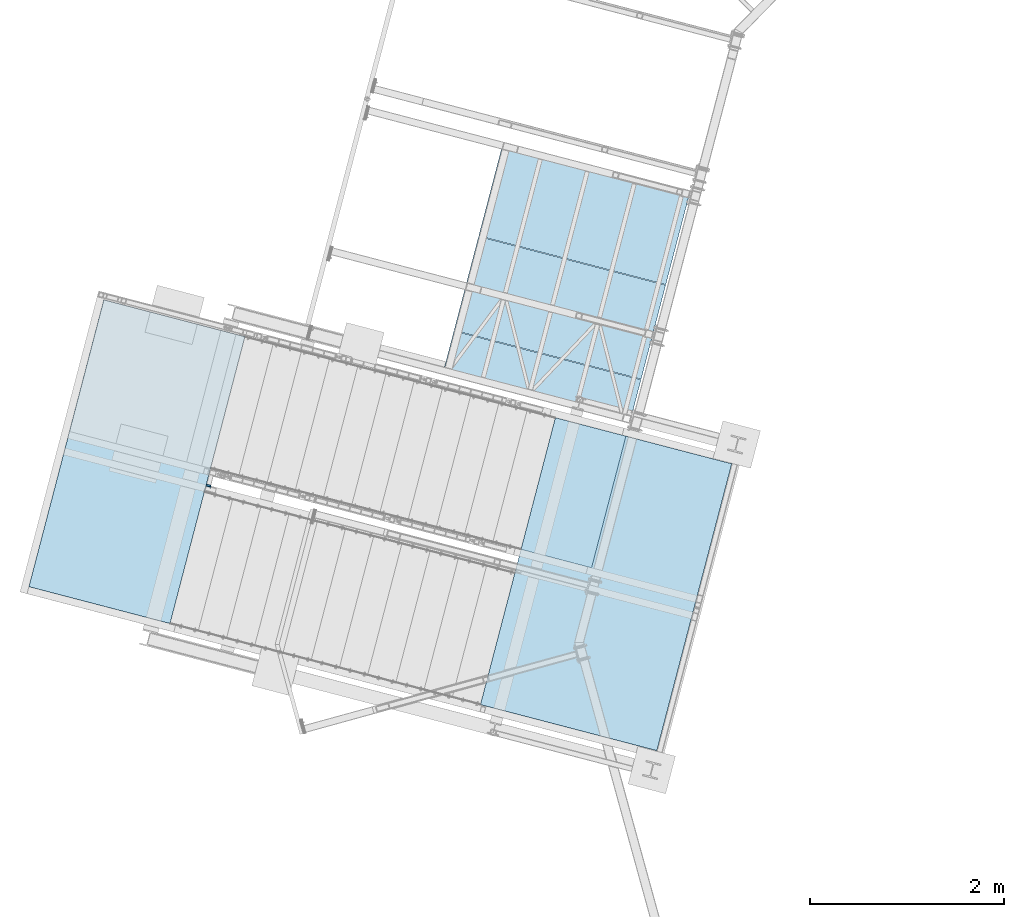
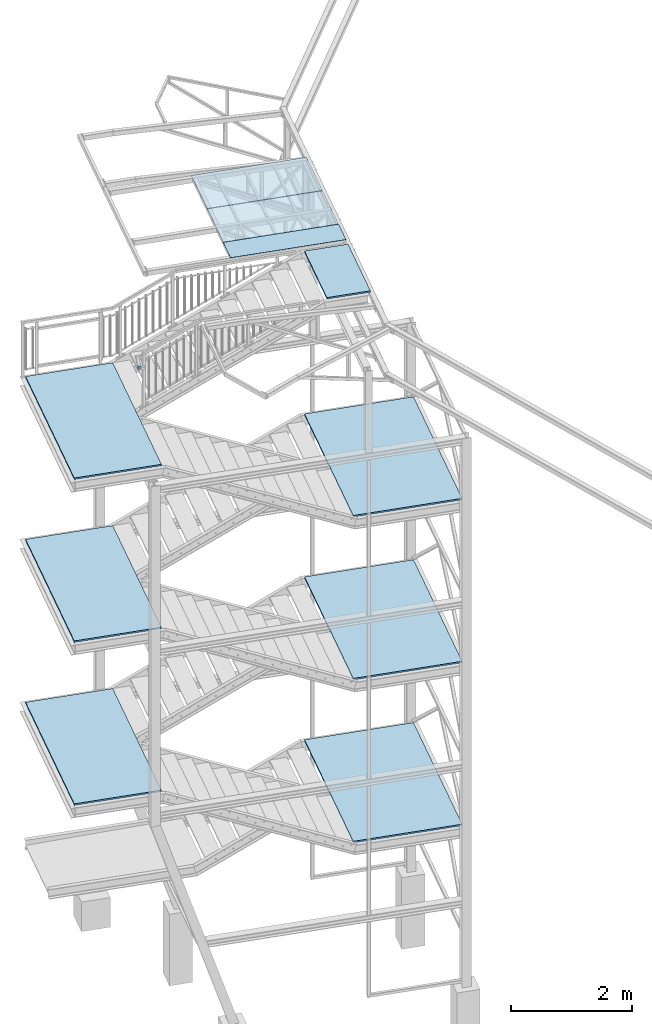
# One storey, part 25 of 169: 10 plates, 1 beam, 11 elements without a shape of their own.
"""IFC2X3 building model written with IfcOpenShell, lengths in millimetres."""

from ifc_helpers import new_model, si_unit, frame, origin_with_axes, origin_2d_with_axis, place, context, subcontext, project, spatial, polyline, hollow_rectangle, outline, extrude, boolean, halfspace, material, type_object, element, aggregate, save


model = new_model("IFC2X3")

# Units and contexts
model_context = context("Model", 3, precision=1e-05, world=origin_with_axes())
body_context = subcontext(model_context, "Body", "Model", "MODEL_VIEW")
ifc_project = project(units=[si_unit("LENGTHUNIT", "METRE", prefix="MILLI"), si_unit("AREAUNIT", "SQUARE_METRE"), si_unit("VOLUMEUNIT", "CUBIC_METRE"), si_unit("MASSUNIT", "GRAM", prefix="KILO"), si_unit("TIMEUNIT", "SECOND"), si_unit("PLANEANGLEUNIT", "RADIAN"), si_unit("SOLIDANGLEUNIT", "STERADIAN"), si_unit("THERMODYNAMICTEMPERATUREUNIT", "DEGREE_CELSIUS"), si_unit("LUMINOUSINTENSITYUNIT", "LUMEN")], contexts=[model_context])

# Site, building, storey
site_placement = place(None, origin_with_axes())
site = spatial("IfcSite", under=ifc_project, at=site_placement, Name="Undefined", CompositionType="ELEMENT")
building_placement = place(site_placement, origin_with_axes())
building = spatial("IfcBuilding", under=site, at=building_placement, Name="Undefined", CompositionType="ELEMENT")
storey_placement = place(building_placement, origin_with_axes())
storey = spatial("IfcBuildingStorey", under=building, at=storey_placement, Name="Undefined", CompositionType="ELEMENT", Elevation=0.0)

# Assembly, beam
assembly_1_placement = place(storey_placement, origin_with_axes())
assembly_1 = element("IfcElementAssembly", 1, at=assembly_1_placement, inside=storey, Name="Steel Assembly", AssemblyPlace="NOTDEFINED", PredefinedType="RIGID_FRAME")
ifc_material = material(Name="STEEL/S235")
beam_type = type_object("IfcBeamType", Name="RHS50*3", PredefinedType="NOTDEFINED")
beam_placement = place(assembly_1_placement, frame((-27947.1136310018, 7205.22617813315, 13348.9599410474), z_axis=(0.967563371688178, -0.252628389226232, -0.000136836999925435), x_axis=(0.252628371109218, 0.967563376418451, -0.000136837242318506)))
beam = element("IfcBeam", 2, at=beam_placement, type_object=beam_type, material=ifc_material, Name="PORĘCZ", ObjectType="RHS50*3", context=body_context, shape_type="CSG", body=[
    boolean("DIFFERENCE", boolean("DIFFERENCE", extrude(hollow_rectangle(XDim=50.0, YDim=50.0, WallThickness=3.0, InnerFilletRadius=3.0, OuterFilletRadius=6.0, at=origin_2d_with_axis()), frame((51.4267365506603, 1.81899079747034e-12, 4.97307063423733e-16), z_axis=(-1.0, -3.46944695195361e-18, -1.38777878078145e-17), x_axis=(1.73472347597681e-18, -1.0, 0.0)), (0.0, 0.0, 1.0), 51.43), extrude(hollow_rectangle(XDim=50.0, YDim=50.0, WallThickness=3.0, InnerFilletRadius=3.0, OuterFilletRadius=6.0, at=origin_2d_with_axis()), frame((-4.9999998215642, -0.00342065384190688, -24.9856454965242), z_axis=(0.000127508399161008, 0.000136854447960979, 0.999999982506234), x_axis=(-1.19071731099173e-12, 0.99999999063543, -0.000136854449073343)), (0.0, 0.0, 1.0), 110.0)), halfspace(frame((20.0270594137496, 25.0003927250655, 0.0228028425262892), z_axis=(-0.935025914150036, -0.354579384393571, 5.56477082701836e-06), x_axis=(-3.77167410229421e-10, 1.56950001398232e-05, 0.999999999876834)), True)),
])
aggregate(assembly_1, [beam])

# Assembly, plate
assembly_2_placement = place(storey_placement, origin_with_axes())
assembly_2 = element("IfcElementAssembly", 3, at=assembly_2_placement, inside=storey, Name="Steel Assembly", AssemblyPlace="NOTDEFINED", PredefinedType="RIGID_FRAME")
plate_type_1 = type_object("IfcPlateType", Name="BL4*465", PredefinedType="NOTDEFINED")
plate_1_placement = place(assembly_2_placement, frame((-25533.4987886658, 8373.62809579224, 14027.7661871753), z_axis=(5.90399999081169e-06, 0.000139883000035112, 0.999999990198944), x_axis=(0.967563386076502, -0.25262836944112, 2.96259202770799e-05)))
plate_1 = element("IfcPlate", 4, at=plate_1_placement, type_object=plate_type_1, material=ifc_material, Name="BLACHA", ObjectType="BL4*465", context=body_context, shape_type="SweptSolid", body=[
    extrude(outline(polyline([(0.0, 0.0), (1988.00000001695, -7.11679604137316e-10), (1988.00000001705, 465.000000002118), (5.04769559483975e-08, 465.000000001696), (0.0, 0.0)])), frame((6.7762635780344e-21, 5.42101086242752e-20, -2.0), z_axis=(0.0, 0.0, 1.0), x_axis=(1.0, 0.0, 0.0)), (0.0, 0.0, 1.0), 4.0),
])
aggregate(assembly_2, [plate_1])

assembly_3_placement = place(storey_placement, origin_with_axes())
assembly_3 = element("IfcElementAssembly", 5, at=assembly_3_placement, inside=storey, Name="Steel Assembly", AssemblyPlace="NOTDEFINED", PredefinedType="RIGID_FRAME")
plate_type_2 = type_object("IfcPlateType", Name="BL4*1000", PredefinedType="NOTDEFINED")
plate_2_placement = place(assembly_3_placement, frame((-25414.7634544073, 8828.38288278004, 14027.7018735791), z_axis=(5.90399999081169e-06, 0.000139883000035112, 0.999999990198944), x_axis=(0.967563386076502, -0.25262836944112, 2.96259202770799e-05)))
plate_2 = element("IfcPlate", 6, at=plate_2_placement, type_object=plate_type_2, material=ifc_material, Name="BLACHA", ObjectType="BL4*1000", context=body_context, shape_type="SweptSolid", body=[
    extrude(outline(polyline([(0.0, 0.0), (1988.00000001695, -7.11679604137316e-10), (1988.00000001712, 1000.00000000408), (4.62969182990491e-08, 1000.00000000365), (0.0, 0.0)])), frame((6.7762635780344e-21, 5.42101086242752e-20, -2.0), z_axis=(0.0, 0.0, 1.0), x_axis=(1.0, 0.0, 0.0)), (0.0, 0.0, 1.0), 4.0),
])
aggregate(assembly_3, [plate_2])

assembly_4_placement = place(storey_placement, origin_with_axes())
assembly_4 = element("IfcElementAssembly", 7, at=assembly_4_placement, inside=storey, Name="Steel Assembly", AssemblyPlace="NOTDEFINED", PredefinedType="RIGID_FRAME")
plate_3_placement = place(assembly_4_placement, frame((-25160.8719417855, 9800.78407618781, 14027.5643521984), z_axis=(5.90399999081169e-06, 0.000139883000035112, 0.999999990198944), x_axis=(0.967563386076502, -0.25262836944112, 2.96259202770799e-05)))
plate_3 = element("IfcPlate", 8, at=plate_3_placement, type_object=plate_type_2, material=ifc_material, Name="BLACHA", ObjectType="BL4*1000", context=body_context, shape_type="SweptSolid", body=[
    extrude(outline(polyline([(0.0, 0.0), (1988.00000001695, -7.11679604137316e-10), (1988.00000001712, 1000.00000000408), (4.62969182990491e-08, 1000.00000000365), (0.0, 0.0)])), frame((6.7762635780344e-21, 5.42101086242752e-20, -2.0), z_axis=(0.0, 0.0, 1.0), x_axis=(1.0, 0.0, 0.0)), (0.0, 0.0, 1.0), 4.0),
])
aggregate(assembly_4, [plate_3])

assembly_5_placement = place(storey_placement, origin_with_axes())
assembly_5 = element("IfcElementAssembly", 9, at=assembly_5_placement, inside=storey, Name="Steel Assembly", AssemblyPlace="NOTDEFINED", PredefinedType="RIGID_FRAME")
plate_type_3 = type_object("IfcPlateType", Name="BL30*750", PredefinedType="NOTDEFINED")
plate_4_placement = place(assembly_5_placement, frame((-23647.1134424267, 7741.56998264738, 14014.9999847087), z_axis=(3.4552000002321e-05, 0.000132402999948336, 0.999999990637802), x_axis=(-0.967563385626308, 0.252628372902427, -1.72000000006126e-07)))
plate_4 = element("IfcPlate", 10, at=plate_4_placement, type_object=plate_type_3, material=ifc_material, Name="KRATA", ObjectType="BL30*750", context=body_context, shape_type="SweptSolid", body=[
    extrude(outline(polyline([(0.0, 0.0), (750.000000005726, 1.56751411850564e-09), (750.000000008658, 1400.0000000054), (2.895831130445e-09, 1400.00000000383), (0.0, 0.0)])), frame((1.81898940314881e-12, 3.72231275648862e-23, -15.0000000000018), z_axis=(0.0, 0.0, 1.0), x_axis=(1.0, 0.0, 0.0)), (0.0, 0.0, 1.0), 30.0),
])
aggregate(assembly_5, [plate_4])

assembly_6_placement = place(storey_placement, origin_with_axes())
assembly_6 = element("IfcElementAssembly", 11, at=assembly_6_placement, inside=storey, Name="Steel Assembly", AssemblyPlace="NOTDEFINED", PredefinedType="RIGID_FRAME")
plate_type_4 = type_object("IfcPlateType", Name="BL30*1500", PredefinedType="NOTDEFINED")
plate_5_placement = place(assembly_6_placement, frame((-29787.6638014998, 6192.3706962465, 12365.4173529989), z_axis=(3.4552000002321e-05, 0.000132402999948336, 0.999999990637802), x_axis=(0.967563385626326, -0.252628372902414, 0.0)))
plate_5 = element("IfcPlate", 12, at=plate_5_placement, type_object=plate_type_4, material=ifc_material, Name="KRATA", ObjectType="BL30*1500", context=body_context, shape_type="SweptSolid", body=[
    extrude(outline(polyline([(0.0, 0.0), (1500.00000001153, 3.13343662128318e-09), (1500.0000000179, 3050.00000001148), (6.39920472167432e-09, 3050.00000000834), (0.0, 0.0)])), frame((1.81898940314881e-12, 3.72231275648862e-23, -15.0000000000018), z_axis=(0.0, 0.0, 1.0), x_axis=(1.0, 0.0, 0.0)), (0.0, 0.0, 1.0), 30.0),
])
aggregate(assembly_6, [plate_5])

assembly_7_placement = place(storey_placement, origin_with_axes())
assembly_7 = element("IfcElementAssembly", 13, at=assembly_7_placement, inside=storey, Name="Steel Assembly", AssemblyPlace="NOTDEFINED", PredefinedType="RIGID_FRAME")
plate_6_placement = place(assembly_7_placement, frame((-29787.7778788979, 6191.93378129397, 9065.41738389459), z_axis=(3.4552000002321e-05, 0.000132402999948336, 0.999999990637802), x_axis=(0.967563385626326, -0.252628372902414, 0.0)))
plate_6 = element("IfcPlate", 14, at=plate_6_placement, type_object=plate_type_4, material=ifc_material, Name="KRATA", ObjectType="BL30*1500", context=body_context, shape_type="SweptSolid", body=[
    extrude(outline(polyline([(0.0, 0.0), (1500.00000001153, 3.13343662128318e-09), (1500.0000000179, 3050.00000001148), (6.39920472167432e-09, 3050.00000000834), (0.0, 0.0)])), frame((1.81898940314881e-12, 3.72231275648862e-23, -15.0000000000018), z_axis=(0.0, 0.0, 1.0), x_axis=(1.0, 0.0, 0.0)), (0.0, 0.0, 1.0), 30.0),
])
aggregate(assembly_7, [plate_6])

assembly_8_placement = place(storey_placement, origin_with_axes())
assembly_8 = element("IfcElementAssembly", 15, at=assembly_8_placement, inside=storey, Name="Steel Assembly", AssemblyPlace="NOTDEFINED", PredefinedType="RIGID_FRAME")
plate_7_placement = place(assembly_8_placement, frame((-29787.8919562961, 6191.49686634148, 5765.4174147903), z_axis=(3.4552000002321e-05, 0.000132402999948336, 0.999999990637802), x_axis=(0.967563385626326, -0.252628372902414, 0.0)))
plate_7 = element("IfcPlate", 16, at=plate_7_placement, type_object=plate_type_4, material=ifc_material, Name="KRATA", ObjectType="BL30*1500", context=body_context, shape_type="SweptSolid", body=[
    extrude(outline(polyline([(0.0, 0.0), (1500.00000001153, 3.13343662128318e-09), (1500.0000000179, 3050.00000001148), (6.39920472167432e-09, 3050.00000000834), (0.0, 0.0)])), frame((1.81898940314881e-12, 3.72231275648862e-23, -15.0000000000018), z_axis=(0.0, 0.0, 1.0), x_axis=(1.0, 0.0, 0.0)), (0.0, 0.0, 1.0), 30.0),
])
aggregate(assembly_8, [plate_7])

assembly_9_placement = place(storey_placement, origin_with_axes())
assembly_9 = element("IfcElementAssembly", 17, at=assembly_9_placement, inside=storey, Name="Steel Assembly", AssemblyPlace="NOTDEFINED", PredefinedType="RIGID_FRAME")
plate_type_5 = type_object("IfcPlateType", Name="BL30*1875", PredefinedType="NOTDEFINED")
plate_8_placement = place(assembly_9_placement, frame((-24372.9000590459, 7930.60434736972, 10715.0000156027), z_axis=(3.4552000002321e-05, 0.000132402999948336, 0.999999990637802), x_axis=(-0.252628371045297, -0.967563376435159, 0.000136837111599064)))
plate_8 = element("IfcPlate", 18, at=plate_8_placement, type_object=plate_type_5, material=ifc_material, Name="KRATA", ObjectType="BL30*1875", context=body_context, shape_type="SweptSolid", body=[
    extrude(outline(polyline([(0.0, 0.0), (3050.0000000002, 2.44835973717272e-09), (3049.99999999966, 1874.99999999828), (-3.01110958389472e-09, 1874.99999999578), (0.0, 0.0)])), frame((1.81898940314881e-12, 3.72231275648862e-23, -15.0000000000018), z_axis=(0.0, 0.0, 1.0), x_axis=(1.0, 0.0, 0.0)), (0.0, 0.0, 1.0), 30.0),
])
aggregate(assembly_9, [plate_8])

assembly_10_placement = place(storey_placement, origin_with_axes())
assembly_10 = element("IfcElementAssembly", 19, at=assembly_10_placement, inside=storey, Name="Steel Assembly", AssemblyPlace="NOTDEFINED", PredefinedType="RIGID_FRAME")
plate_9_placement = place(assembly_10_placement, frame((-24373.0141364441, 7930.1674324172, 7415.00004649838), z_axis=(3.4552000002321e-05, 0.000132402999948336, 0.999999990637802), x_axis=(-0.252628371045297, -0.967563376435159, 0.000136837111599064)))
plate_9 = element("IfcPlate", 20, at=plate_9_placement, type_object=plate_type_5, material=ifc_material, Name="KRATA", ObjectType="BL30*1875", context=body_context, shape_type="SweptSolid", body=[
    extrude(outline(polyline([(0.0, 0.0), (3050.0000000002, 2.44835973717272e-09), (3049.99999999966, 1874.99999999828), (-3.01110958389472e-09, 1874.99999999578), (0.0, 0.0)])), frame((1.81898940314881e-12, 3.72231275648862e-23, -15.0000000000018), z_axis=(0.0, 0.0, 1.0), x_axis=(1.0, 0.0, 0.0)), (0.0, 0.0, 1.0), 30.0),
])
aggregate(assembly_10, [plate_9])

assembly_11_placement = place(storey_placement, origin_with_axes())
assembly_11 = element("IfcElementAssembly", 21, at=assembly_11_placement, inside=storey, Name="Steel Assembly", AssemblyPlace="NOTDEFINED", PredefinedType="RIGID_FRAME")
plate_10_placement = place(assembly_11_placement, frame((-24373.1282138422, 7929.73051746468, 4115.0000773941), z_axis=(3.4552000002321e-05, 0.000132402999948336, 0.999999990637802), x_axis=(-0.252628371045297, -0.967563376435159, 0.000136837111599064)))
plate_10 = element("IfcPlate", 22, at=plate_10_placement, type_object=plate_type_5, material=ifc_material, Name="KRATA", ObjectType="BL30*1875", context=body_context, shape_type="SweptSolid", body=[
    extrude(outline(polyline([(0.0, 0.0), (3050.0000000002, 2.44835973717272e-09), (3049.99999999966, 1874.99999999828), (-3.01110958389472e-09, 1874.99999999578), (0.0, 0.0)])), frame((1.81898940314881e-12, 3.72231275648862e-23, -15.0000000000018), z_axis=(0.0, 0.0, 1.0), x_axis=(1.0, 0.0, 0.0)), (0.0, 0.0, 1.0), 30.0),
])
aggregate(assembly_11, [plate_10])

save(model, "model.ifc")
